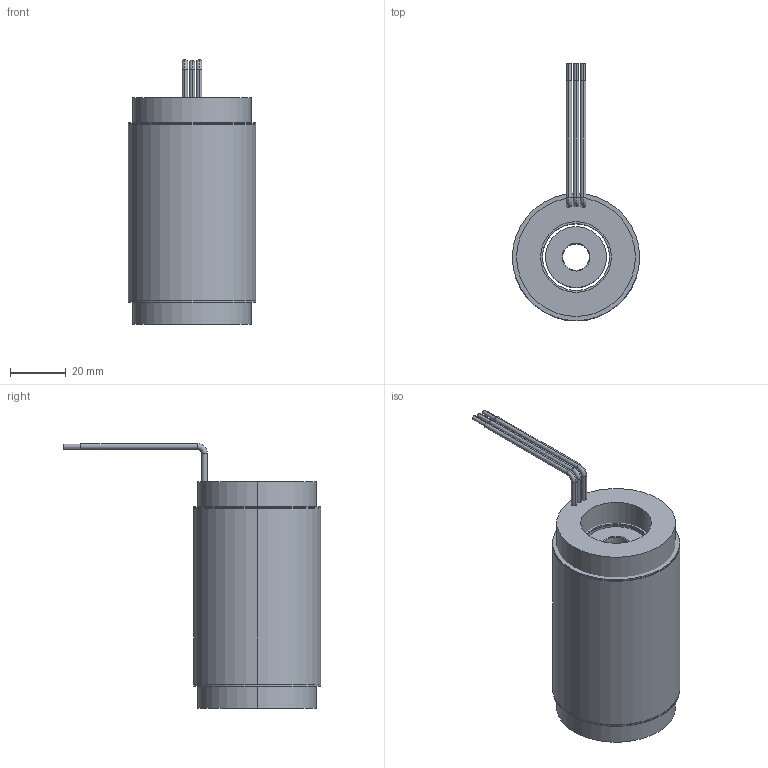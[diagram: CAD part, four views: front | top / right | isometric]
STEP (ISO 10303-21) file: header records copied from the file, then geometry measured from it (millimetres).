
FILE_DESCRIPTION (( 'STEP AP214' ), '1' );
FILE_NAME ('6100251-05.STEP', '2019-11-11T16:47:45', ( '' ), ( '' ), 'SwSTEP 2.0', 'SolidWorks 2016', '' );
FILE_SCHEMA (( 'AUTOMOTIVE_DESIGN' ));
Length unit declared in the file: millimetre
Products named in the file (9): 4250336-XX_4250336-03; 4500512-XX_4500512-05; 4400029-00; 6100251-05; 4150140-XX_4150140-03; 4450149-XX_4450149-02; COMP4500512-XX(COIL)_COMP4500512-05(COIL); 4600513-00
Assembly tree (10 placements, depth 4):
  6100251-05
    4500512-XX_4500512-05
      4450149-XX_4450149-02
        4450149-XX_4450149-02
        4400029-00  x2
        4600513-00  x2
      COMP4500512-XX(COIL)_COMP4500512-05(COIL)
    4250336-XX_4250336-03
      4150140-XX_4150140-03
Bounding box: 45.72 x 92.54 x 95.12 mm (x, y, z)
Volume: 171690.3 mm3; surface area: 53295.7 mm2
Topology: 7 solids, 7 shells, 76 faces, 152 edges, 96 vertices
Faces by surface type: cylinder 46, plane 20, torus 6, cone 4
Entity records: 2046 total; most frequent: DIRECTION 374, CARTESIAN_POINT 288, ORIENTED_EDGE 256, AXIS2_PLACEMENT_3D 166, EDGE_CURVE 128, CIRCLE 86, EDGE_LOOP 80, VERTEX_POINT 80
